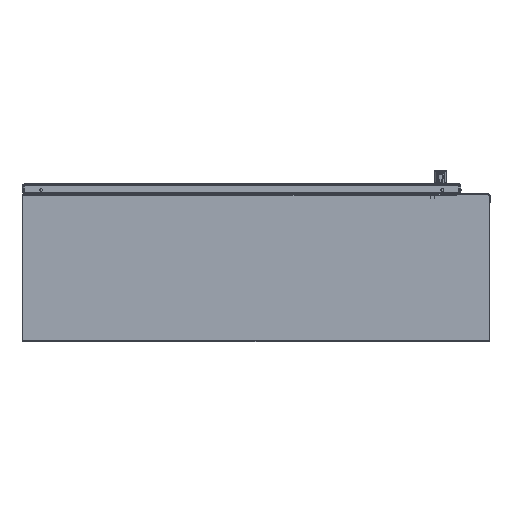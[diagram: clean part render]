
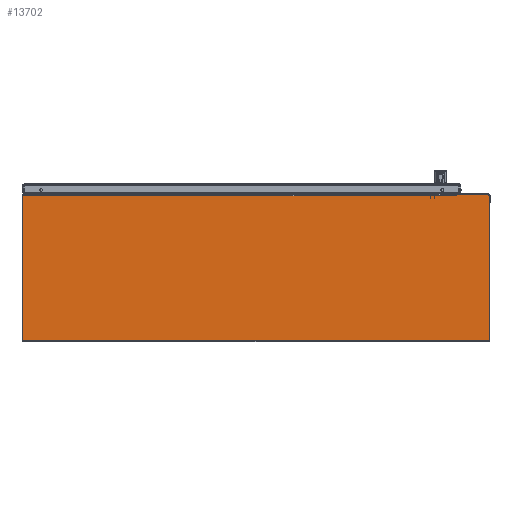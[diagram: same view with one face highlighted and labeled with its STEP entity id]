
A CAD part, front view. The second image highlights one B-rep face of the part: STEP entity #13702.
In plain terms, the highlighted planar face has unit normal (0, -1, 0) as drawn and (0, 0, 1) by its records, which use the part's own axes.
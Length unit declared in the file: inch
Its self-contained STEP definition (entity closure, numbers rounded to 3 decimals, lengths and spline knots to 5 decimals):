
#625 = VERTEX_POINT ( 'NONE', #19333 ) ;
#1112 = AXIS2_PLACEMENT_3D ( 'NONE', #76018, #30737, #8563 ) ;
#3319 = DIRECTION ( 'NONE',  ( 1., 0., 0. ) ) ;
#3903 = VECTOR ( 'NONE', #49128, 39.37008 ) ;
#4243 = CIRCLE ( 'NONE', #97785, 0.102 ) ;
#4311 = EDGE_CURVE ( 'NONE', #14257, #55661, #94925, .T. ) ;
#5083 = CARTESIAN_POINT ( 'NONE',  ( 19.566, 11.849, 0.072 ) ) ;
#5776 = DIRECTION ( 'NONE',  ( 1., 0., 0. ) ) ;
#5881 = EDGE_LOOP ( 'NONE', ( #36071, #85806, #34351, #39010, #8723, #94998, #7675, #26609, #18410 ) ) ;
#6803 = DIRECTION ( 'NONE',  ( 1., 0., 0. ) ) ;
#7675 = ORIENTED_EDGE ( 'NONE', *, *, #10084, .T. ) ;
#8563 = DIRECTION ( 'NONE',  ( 1., 0., 0. ) ) ;
#8723 = ORIENTED_EDGE ( 'NONE', *, *, #33592, .T. ) ;
#9397 = DIRECTION ( 'NONE',  ( 0., -1., 0. ) ) ;
#10084 = EDGE_CURVE ( 'NONE', #66364, #14257, #4243, .T. ) ;
#13702 = ADVANCED_FACE ( 'NONE', ( #37708 ), #89651, .T. ) ;
#14257 = VERTEX_POINT ( 'NONE', #21370 ) ;
#16952 = DIRECTION ( 'NONE',  ( 0., -1., 0. ) ) ;
#17407 = CARTESIAN_POINT ( 'NONE',  ( 16.99, 11.763, 0.072 ) ) ;
#17854 = CARTESIAN_POINT ( 'NONE',  ( -18.028, 0.102, 0.072 ) ) ;
#18410 = ORIENTED_EDGE ( 'NONE', *, *, #61633, .T. ) ;
#19333 = CARTESIAN_POINT ( 'NONE',  ( 19.668, 11.747, 0.072 ) ) ;
#21370 = CARTESIAN_POINT ( 'NONE',  ( -18.028, 0., 0.072 ) ) ;
#23881 = CARTESIAN_POINT ( 'NONE',  ( -18.13, 11.925, 0.072 ) ) ;
#26388 = LINE ( 'NONE', #23881, #86678 ) ;
#26547 = VERTEX_POINT ( 'NONE', #39862 ) ;
#26609 = ORIENTED_EDGE ( 'NONE', *, *, #4311, .T. ) ;
#27287 = CIRCLE ( 'NONE', #83717, 0.102 ) ;
#30737 = DIRECTION ( 'NONE',  ( 0., 0., 1. ) ) ;
#33035 = LINE ( 'NONE', #17407, #42535 ) ;
#33592 = EDGE_CURVE ( 'NONE', #26547, #74795, #33035, .T. ) ;
#33682 = DIRECTION ( 'NONE',  ( 0., 0., 1. ) ) ;
#34351 = ORIENTED_EDGE ( 'NONE', *, *, #78158, .F. ) ;
#35183 = DIRECTION ( 'NONE',  ( 0., 0., 1. ) ) ;
#35859 = EDGE_CURVE ( 'NONE', #35924, #625, #93073, .T. ) ;
#35924 = VERTEX_POINT ( 'NONE', #81335 ) ;
#36008 = EDGE_CURVE ( 'NONE', #625, #70535, #71872, .T. ) ;
#36071 = ORIENTED_EDGE ( 'NONE', *, *, #35859, .T. ) ;
#37708 = FACE_OUTER_BOUND ( 'NONE', #5881, .T. ) ;
#37818 = CARTESIAN_POINT ( 'NONE',  ( 19.668, 11.849, 0.072 ) ) ;
#38096 = LINE ( 'NONE', #37818, #55876 ) ;
#39010 = ORIENTED_EDGE ( 'NONE', *, *, #82912, .T. ) ;
#39862 = CARTESIAN_POINT ( 'NONE',  ( 16.99, 11.763, 0.072 ) ) ;
#39974 = VECTOR ( 'NONE', #9397, 39.37008 ) ;
#41532 = CARTESIAN_POINT ( 'NONE',  ( -18.13, 0., 0.072 ) ) ;
#42136 = CARTESIAN_POINT ( 'NONE',  ( 19.566, 0.102, 0.072 ) ) ;
#42535 = VECTOR ( 'NONE', #85123, 39.37008 ) ;
#49128 = DIRECTION ( 'NONE',  ( 1., 0., 0. ) ) ;
#55222 = CARTESIAN_POINT ( 'NONE',  ( 19.566, 0., 0.072 ) ) ;
#55661 = VERTEX_POINT ( 'NONE', #55222 ) ;
#55876 = VECTOR ( 'NONE', #6803, 39.37008 ) ;
#58035 = EDGE_CURVE ( 'NONE', #74795, #66364, #26388, .T. ) ;
#59503 = CARTESIAN_POINT ( 'NONE',  ( 19.668, 11.925, 0.072 ) ) ;
#61633 = EDGE_CURVE ( 'NONE', #55661, #35924, #27287, .T. ) ;
#62932 = CARTESIAN_POINT ( 'NONE',  ( 16.99, 0., 0.072 ) ) ;
#63203 = CARTESIAN_POINT ( 'NONE',  ( 16.99, 11.849, 0.072 ) ) ;
#66364 = VERTEX_POINT ( 'NONE', #90539 ) ;
#66527 = CARTESIAN_POINT ( 'NONE',  ( -18.13, 0., 0.072 ) ) ;
#70535 = VERTEX_POINT ( 'NONE', #5083 ) ;
#71872 = CIRCLE ( 'NONE', #1112, 0.102 ) ;
#72979 = VECTOR ( 'NONE', #74068, 39.37008 ) ;
#74068 = DIRECTION ( 'NONE',  ( 0., 1., 0. ) ) ;
#74472 = AXIS2_PLACEMENT_3D ( 'NONE', #66527, #89019, #88367 ) ;
#74795 = VERTEX_POINT ( 'NONE', #85723 ) ;
#76018 = CARTESIAN_POINT ( 'NONE',  ( 19.566, 11.747, 0.072 ) ) ;
#78158 = EDGE_CURVE ( 'NONE', #78748, #70535, #38096, .T. ) ;
#78748 = VERTEX_POINT ( 'NONE', #63203 ) ;
#81335 = CARTESIAN_POINT ( 'NONE',  ( 19.668, 0.102, 0.072 ) ) ;
#82912 = EDGE_CURVE ( 'NONE', #78748, #26547, #93179, .T. ) ;
#83717 = AXIS2_PLACEMENT_3D ( 'NONE', #42136, #35183, #5776 ) ;
#85123 = DIRECTION ( 'NONE',  ( -1., 0., 0. ) ) ;
#85723 = CARTESIAN_POINT ( 'NONE',  ( -18.13, 11.763, 0.072 ) ) ;
#85806 = ORIENTED_EDGE ( 'NONE', *, *, #36008, .T. ) ;
#86678 = VECTOR ( 'NONE', #16952, 39.37008 ) ;
#88367 = DIRECTION ( 'NONE',  ( 1., 0., 0. ) ) ;
#89019 = DIRECTION ( 'NONE',  ( 0., 0., 1. ) ) ;
#89651 = PLANE ( 'NONE',  #74472 ) ;
#90539 = CARTESIAN_POINT ( 'NONE',  ( -18.13, 0.102, 0.072 ) ) ;
#93073 = LINE ( 'NONE', #59503, #72979 ) ;
#93179 = LINE ( 'NONE', #62932, #39974 ) ;
#94925 = LINE ( 'NONE', #41532, #3903 ) ;
#94998 = ORIENTED_EDGE ( 'NONE', *, *, #58035, .T. ) ;
#97785 = AXIS2_PLACEMENT_3D ( 'NONE', #17854, #33682, #3319 ) ;
